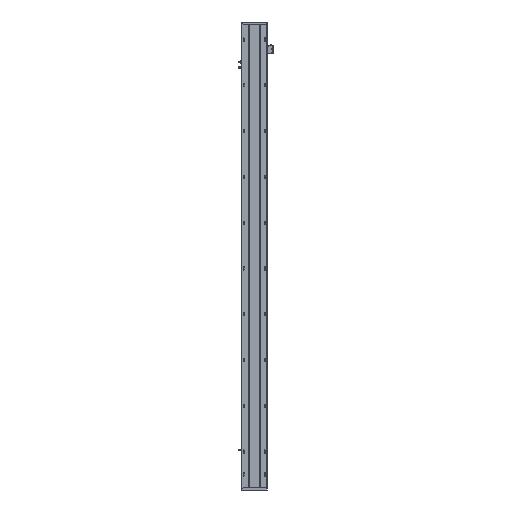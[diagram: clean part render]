
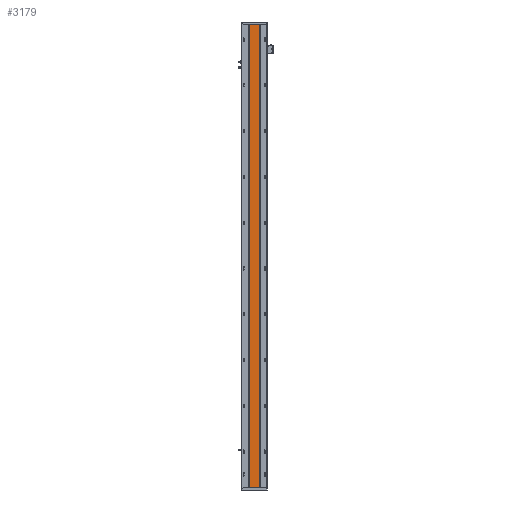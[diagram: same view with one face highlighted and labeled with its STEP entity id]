
A CAD part, front view. The second image highlights one B-rep face of the part: STEP entity #3179.
In plain terms, the highlighted planar face has unit normal (0, -1, 0).
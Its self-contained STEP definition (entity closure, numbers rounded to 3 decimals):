
#411 = CARTESIAN_POINT ( 'NONE',  ( 183.063, 115.96, 2188. ) ) ;
#455 = CARTESIAN_POINT ( 'NONE',  ( 133.07, 115.96, 2188. ) ) ;
#1111 = PLANE ( 'NONE',  #19177 ) ;
#1208 = CARTESIAN_POINT ( 'NONE',  ( 133.07, 115.96, 2188. ) ) ;
#1528 = CARTESIAN_POINT ( 'NONE',  ( 0., 115.96, 2188. ) ) ;
#1862 = ORIENTED_EDGE ( 'NONE', *, *, #3247, .T. ) ;
#2219 = VECTOR ( 'NONE', #25366, 1000. ) ;
#2321 = EDGE_CURVE ( 'NONE', #27781, #23039, #19986, .T. ) ;
#3179 = ADVANCED_FACE ( 'NONE', ( #17806 ), #1111, .F. ) ;
#3247 = EDGE_CURVE ( 'NONE', #14157, #21460, #6400, .T. ) ;
#4767 = VECTOR ( 'NONE', #26059, 1000. ) ;
#6001 = VECTOR ( 'NONE', #8551, 1000. ) ;
#6147 = CARTESIAN_POINT ( 'NONE',  ( 183.063, 115.96, 2188. ) ) ;
#6400 = LINE ( 'NONE', #1208, #6001 ) ;
#6424 = DIRECTION ( 'NONE',  ( -1., 0., 0. ) ) ;
#8551 = DIRECTION ( 'NONE',  ( 0., 0., -1. ) ) ;
#11717 = CARTESIAN_POINT ( 'NONE',  ( 133.07, 115.96, 0. ) ) ;
#12613 = LINE ( 'NONE', #19034, #31230 ) ;
#13451 = EDGE_CURVE ( 'NONE', #21460, #23039, #12613, .T. ) ;
#13685 = EDGE_LOOP ( 'NONE', ( #29112, #19271, #25344, #1862 ) ) ;
#13732 = CARTESIAN_POINT ( 'NONE',  ( 183.063, 115.96, 0. ) ) ;
#14157 = VERTEX_POINT ( 'NONE', #455 ) ;
#16343 = LINE ( 'NONE', #29929, #2219 ) ;
#17806 = FACE_OUTER_BOUND ( 'NONE', #13685, .T. ) ;
#19034 = CARTESIAN_POINT ( 'NONE',  ( 0., 115.96, 0. ) ) ;
#19177 = AXIS2_PLACEMENT_3D ( 'NONE', #1528, #23551, #6424 ) ;
#19271 = ORIENTED_EDGE ( 'NONE', *, *, #2321, .F. ) ;
#19986 = LINE ( 'NONE', #6147, #4767 ) ;
#21457 = DIRECTION ( 'NONE',  ( 1., 0., 0. ) ) ;
#21460 = VERTEX_POINT ( 'NONE', #11717 ) ;
#23039 = VERTEX_POINT ( 'NONE', #13732 ) ;
#23551 = DIRECTION ( 'NONE',  ( 0., 1., 0. ) ) ;
#25344 = ORIENTED_EDGE ( 'NONE', *, *, #29900, .F. ) ;
#25366 = DIRECTION ( 'NONE',  ( 1., 0., 0. ) ) ;
#26059 = DIRECTION ( 'NONE',  ( 0., 0., -1. ) ) ;
#27781 = VERTEX_POINT ( 'NONE', #411 ) ;
#29112 = ORIENTED_EDGE ( 'NONE', *, *, #13451, .T. ) ;
#29900 = EDGE_CURVE ( 'NONE', #14157, #27781, #16343, .T. ) ;
#29929 = CARTESIAN_POINT ( 'NONE',  ( 0., 115.96, 2188. ) ) ;
#31230 = VECTOR ( 'NONE', #21457, 1000. ) ;
